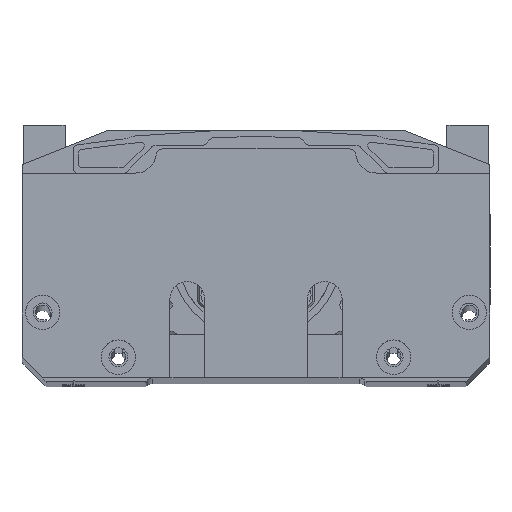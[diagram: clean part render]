
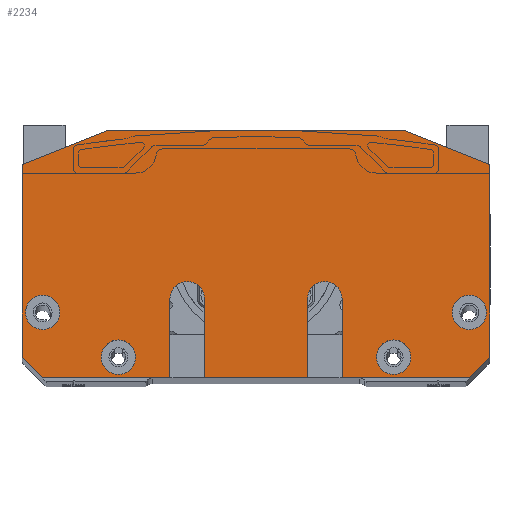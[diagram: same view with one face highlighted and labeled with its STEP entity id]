
A CAD part, top view. The second image highlights one B-rep face of the part: STEP entity #2234.
In plain terms, the highlighted planar face has unit normal (0, 0, 1).
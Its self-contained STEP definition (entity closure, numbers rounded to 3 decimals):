
#2234=ADVANCED_FACE('9',(#3307,#3308,#3309,#3310,#3311),#2891,.T.);
#2891=PLANE('',#18897);
#3307=FACE_BOUND('',#4323,.T.);
#3308=FACE_BOUND('',#4324,.T.);
#3309=FACE_BOUND('',#4325,.T.);
#3310=FACE_BOUND('',#4326,.T.);
#3311=FACE_BOUND('',#4327,.T.);
#4323=EDGE_LOOP('',(#10438,#10439,#10440,#10441,#10442,#10443,#10444,#10445,
#10446,#10447,#10448,#10449,#10450,#10451,#10452,#10453));
#4324=EDGE_LOOP('',(#10454));
#4325=EDGE_LOOP('',(#10455));
#4326=EDGE_LOOP('',(#10456));
#4327=EDGE_LOOP('',(#10457));
#5285=LINE('',#26927,#6583);
#5307=LINE('',#26987,#6605);
#5318=LINE('',#27008,#6616);
#5321=LINE('',#27013,#6619);
#5324=LINE('',#27018,#6622);
#5334=LINE('',#27039,#6632);
#5346=LINE('',#27065,#6644);
#5773=LINE('',#30632,#7071);
#5777=LINE('',#30640,#7075);
#5779=LINE('',#30647,#7077);
#5783=LINE('',#30655,#7081);
#5788=LINE('',#30678,#7086);
#5791=LINE('',#30684,#7089);
#5797=LINE('',#30723,#7095);
#6583=VECTOR('',#20772,1.);
#6605=VECTOR('',#20832,1.);
#6616=VECTOR('',#20851,1.);
#6619=VECTOR('',#20854,1.);
#6622=VECTOR('',#20857,1.);
#6632=VECTOR('',#20875,1.);
#6644=VECTOR('',#20895,1.);
#7071=VECTOR('',#22654,1.);
#7075=VECTOR('',#22660,1.);
#7077=VECTOR('',#22670,1.);
#7081=VECTOR('',#22676,1.);
#7086=VECTOR('',#22701,1.);
#7089=VECTOR('',#22706,1.);
#7095=VECTOR('',#22758,1.);
#10438=ORIENTED_EDGE('',*,*,#16014,.T.);
#10439=ORIENTED_EDGE('',*,*,#16016,.T.);
#10440=ORIENTED_EDGE('',*,*,#16010,.T.);
#10441=ORIENTED_EDGE('',*,*,#15116,.F.);
#10442=ORIENTED_EDGE('',*,*,#16022,.T.);
#10443=ORIENTED_EDGE('',*,*,#16024,.T.);
#10444=ORIENTED_EDGE('',*,*,#16018,.T.);
#10445=ORIENTED_EDGE('',*,*,#15113,.F.);
#10446=ORIENTED_EDGE('',*,*,#15130,.T.);
#10447=ORIENTED_EDGE('',*,*,#15144,.F.);
#10448=ORIENTED_EDGE('',*,*,#16033,.T.);
#10449=ORIENTED_EDGE('',*,*,#16055,.F.);
#10450=ORIENTED_EDGE('',*,*,#16036,.T.);
#10451=ORIENTED_EDGE('',*,*,#15069,.F.);
#10452=ORIENTED_EDGE('',*,*,#15101,.T.);
#10453=ORIENTED_EDGE('',*,*,#15119,.F.);
#10454=ORIENTED_EDGE('',*,*,#16056,.F.);
#10455=ORIENTED_EDGE('',*,*,#16057,.F.);
#10456=ORIENTED_EDGE('',*,*,#16058,.F.);
#10457=ORIENTED_EDGE('',*,*,#16059,.F.);
#13159=VERTEX_POINT('',#26926);
#13160=VERTEX_POINT('',#26928);
#13178=VERTEX_POINT('',#26986);
#13184=VERTEX_POINT('',#27007);
#13185=VERTEX_POINT('',#27009);
#13186=VERTEX_POINT('',#27012);
#13187=VERTEX_POINT('',#27014);
#13188=VERTEX_POINT('',#27017);
#13195=VERTEX_POINT('',#27038);
#13205=VERTEX_POINT('',#27064);
#13744=VERTEX_POINT('',#30633);
#13746=VERTEX_POINT('',#30639);
#13748=VERTEX_POINT('',#30648);
#13750=VERTEX_POINT('',#30654);
#13759=VERTEX_POINT('',#30679);
#13761=VERTEX_POINT('',#30685);
#13771=VERTEX_POINT('',#30725);
#13772=VERTEX_POINT('',#30727);
#13773=VERTEX_POINT('',#30729);
#13774=VERTEX_POINT('',#30731);
#15069=EDGE_CURVE('',#13159,#13160,#5285,.T.);
#15101=EDGE_CURVE('',#13159,#13178,#5307,.T.);
#15113=EDGE_CURVE('',#13184,#13185,#5318,.T.);
#15116=EDGE_CURVE('',#13186,#13187,#5321,.T.);
#15119=EDGE_CURVE('',#13188,#13178,#5324,.T.);
#15130=EDGE_CURVE('',#13184,#13195,#5334,.T.);
#15144=EDGE_CURVE('',#13205,#13195,#5346,.T.);
#16010=EDGE_CURVE('',#13744,#13187,#5773,.T.);
#16014=EDGE_CURVE('',#13188,#13746,#5777,.T.);
#16016=EDGE_CURVE('',#13746,#13744,#17426,.T.);
#16018=EDGE_CURVE('',#13748,#13185,#5779,.T.);
#16022=EDGE_CURVE('',#13186,#13750,#5783,.T.);
#16024=EDGE_CURVE('',#13750,#13748,#17428,.T.);
#16033=EDGE_CURVE('',#13205,#13759,#5788,.T.);
#16036=EDGE_CURVE('',#13761,#13160,#5791,.T.);
#16055=EDGE_CURVE('',#13761,#13759,#5797,.T.);
#16056=EDGE_CURVE('',#13771,#13771,#17446,.T.);
#16057=EDGE_CURVE('',#13772,#13772,#17447,.T.);
#16058=EDGE_CURVE('',#13773,#13773,#17448,.T.);
#16059=EDGE_CURVE('',#13774,#13774,#17449,.T.);
#17426=CIRCLE('',#18856,5.);
#17428=CIRCLE('',#18861,5.);
#17446=CIRCLE('',#18893,5.);
#17447=CIRCLE('',#18894,5.);
#17448=CIRCLE('',#18895,5.);
#17449=CIRCLE('',#18896,5.);
#18856=AXIS2_PLACEMENT_3D('',#30643,#22665,#22666);
#18861=AXIS2_PLACEMENT_3D('',#30658,#22681,#22682);
#18893=AXIS2_PLACEMENT_3D('',#30724,#22759,#22760);
#18894=AXIS2_PLACEMENT_3D('',#30726,#22761,#22762);
#18895=AXIS2_PLACEMENT_3D('',#30728,#22763,#22764);
#18896=AXIS2_PLACEMENT_3D('',#30730,#22765,#22766);
#18897=AXIS2_PLACEMENT_3D('',#30732,#22767,#22768);
#20772=DIRECTION('',(0.,1.,0.));
#20832=DIRECTION('',(0.707,-0.707,0.));
#20851=DIRECTION('',(-1.,0.,0.));
#20854=DIRECTION('',(-1.,0.,0.));
#20857=DIRECTION('',(-1.,0.,0.));
#20875=DIRECTION('',(0.707,0.707,0.));
#20895=DIRECTION('',(0.,-1.,0.));
#22654=DIRECTION('',(0.,-1.,0.));
#22660=DIRECTION('',(0.,1.,0.));
#22665=DIRECTION('',(0.,0.,-1.));
#22666=DIRECTION('',(1.,0.,0.));
#22670=DIRECTION('',(0.,-1.,0.));
#22676=DIRECTION('',(0.,1.,0.));
#22681=DIRECTION('',(0.,0.,-1.));
#22682=DIRECTION('',(-1.,0.,0.));
#22701=DIRECTION('',(-0.928,0.371,0.));
#22706=DIRECTION('',(-0.928,-0.371,0.));
#22758=DIRECTION('',(1.,0.,0.));
#22759=DIRECTION('',(0.,0.,1.));
#22760=DIRECTION('',(1.,0.,0.));
#22761=DIRECTION('',(0.,0.,1.));
#22762=DIRECTION('',(1.,0.,0.));
#22763=DIRECTION('',(0.,0.,1.));
#22764=DIRECTION('',(1.,0.,0.));
#22765=DIRECTION('',(0.,0.,1.));
#22766=DIRECTION('',(1.,0.,0.));
#22767=DIRECTION('',(0.,0.,1.));
#22768=DIRECTION('',(-1.,0.,0.));
#26926=CARTESIAN_POINT('',(-68.,6.,382.));
#26927=CARTESIAN_POINT('',(-68.,0.,382.));
#26928=CARTESIAN_POINT('',(-68.,62.,382.));
#26986=CARTESIAN_POINT('',(-62.,0.,382.));
#26987=CARTESIAN_POINT('',(-49.,-13.,382.));
#27007=CARTESIAN_POINT('',(62.,0.,382.));
#27008=CARTESIAN_POINT('',(68.,0.,382.));
#27009=CARTESIAN_POINT('',(25.,0.,382.));
#27012=CARTESIAN_POINT('',(15.,0.,382.));
#27013=CARTESIAN_POINT('',(68.,0.,382.));
#27014=CARTESIAN_POINT('',(-15.,0.,382.));
#27017=CARTESIAN_POINT('',(-25.,0.,382.));
#27018=CARTESIAN_POINT('',(68.,0.,382.));
#27038=CARTESIAN_POINT('',(68.,6.,382.));
#27039=CARTESIAN_POINT('',(49.,-13.,382.));
#27064=CARTESIAN_POINT('',(68.,62.,382.));
#27065=CARTESIAN_POINT('',(68.,0.,382.));
#30632=CARTESIAN_POINT('',(-15.,23.,382.));
#30633=CARTESIAN_POINT('',(-15.,23.,382.));
#30639=CARTESIAN_POINT('',(-25.,23.,382.));
#30640=CARTESIAN_POINT('',(-25.,23.,382.));
#30643=CARTESIAN_POINT('',(-20.,23.,382.));
#30647=CARTESIAN_POINT('',(25.,23.,382.));
#30648=CARTESIAN_POINT('',(25.,23.,382.));
#30654=CARTESIAN_POINT('',(15.,23.,382.));
#30655=CARTESIAN_POINT('',(15.,23.,382.));
#30658=CARTESIAN_POINT('',(20.,23.,382.));
#30678=CARTESIAN_POINT('',(18.345,81.862,382.));
#30679=CARTESIAN_POINT('',(43.,72.,382.));
#30684=CARTESIAN_POINT('',(-18.345,81.862,382.));
#30685=CARTESIAN_POINT('',(-43.,72.,382.));
#30723=CARTESIAN_POINT('',(68.,72.,382.));
#30724=CARTESIAN_POINT('',(-62.,19.,382.));
#30725=CARTESIAN_POINT('',(-57.,19.,382.));
#30726=CARTESIAN_POINT('',(62.,19.,382.));
#30727=CARTESIAN_POINT('',(67.,19.,382.));
#30728=CARTESIAN_POINT('',(-40.,6.,382.));
#30729=CARTESIAN_POINT('',(-35.,6.,382.));
#30730=CARTESIAN_POINT('',(40.,6.,382.));
#30731=CARTESIAN_POINT('',(45.,6.,382.));
#30732=CARTESIAN_POINT('',(0.,36.,382.));
